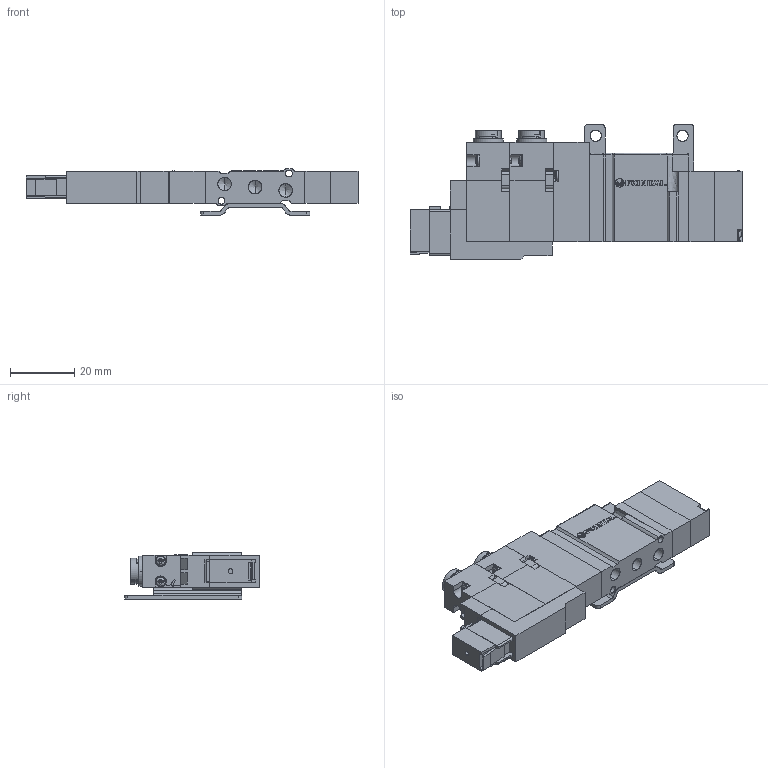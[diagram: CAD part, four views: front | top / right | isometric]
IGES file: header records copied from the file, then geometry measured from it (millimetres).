
Start section: SolidWorks IGES file using analytic representation for surfaces
Global section: file name: C:\Users\Toshiba\Desktop\A05FD35#-BS-#-#-E.IGS; native system: SolidWorks 2014; preprocessor: SolidWorks 2014; author: Toshiba; date: 160125.144841; units: millimetre
Bounding box: 103.3 x 42 x 14.4 mm (x, y, z)
Surface area: 18877.9 mm2 (no closed solid volume)
Topology: 0 solids, 0 shells, 946 faces, 8032 edges, 7998 vertices
Faces by surface type: bspline 636, revolution 310
